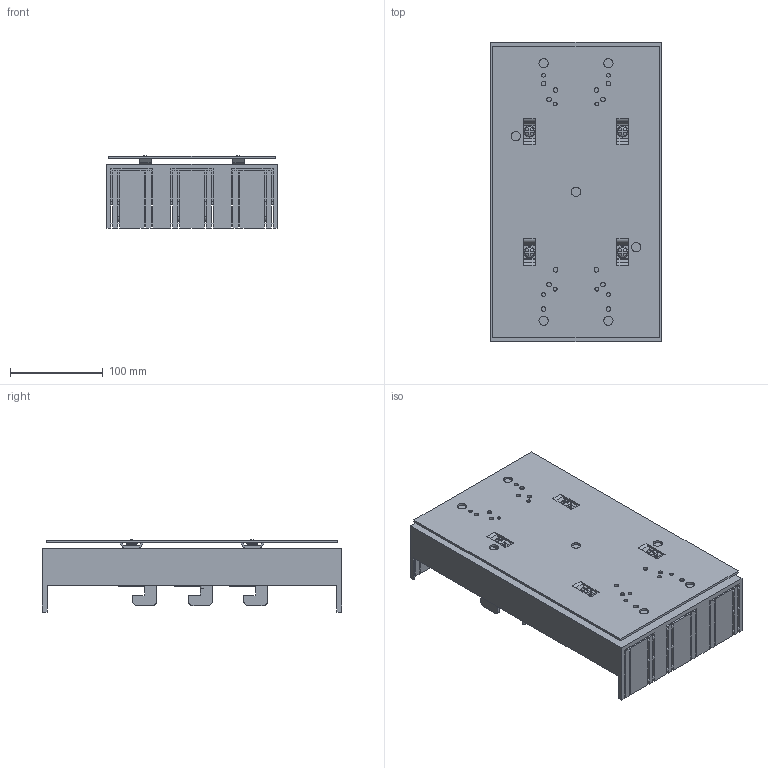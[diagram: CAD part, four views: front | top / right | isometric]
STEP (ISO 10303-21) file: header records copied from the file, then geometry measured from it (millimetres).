
FILE_DESCRIPTION (( 'STEP AP203' ), '1' );
FILE_NAME ('55909.STEP', '2021-09-01T01:57:06', ( '' ), ( '' ), 'SwSTEP 2.0', 'SolidWorks 2017', '' );
FILE_SCHEMA (( 'CONFIG_CONTROL_DESIGN' ));
Length unit declared in the file: millimetre
Products named in the file (2): 55909
Bounding box: 184 x 323 x 77.94 mm (x, y, z)
Volume: 2507659.7 mm3; surface area: 336038.5 mm2
Topology: 1 solids, 1 shells, 1160 faces, 3393 edges, 2250 vertices
Faces by surface type: plane 977, cylinder 163, torus 16, cone 4
Full cylindrical faces by diameter (mm): 4 x4, 4.2 x4, 5 x12, 6 x4, 6.4 x4, 7 x4, 10 x7, 12 x8
Entity records: 38539 total; most frequent: CARTESIAN_POINT 7476, ORIENTED_EDGE 6640, DIRECTION 5812, EDGE_CURVE 3320, LINE 2908, VECTOR 2908, VERTEX_POINT 2236, AXIS2_PLACEMENT_3D 1452
